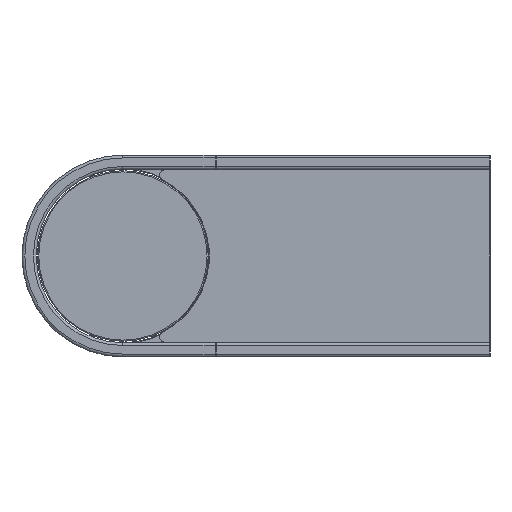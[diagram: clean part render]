
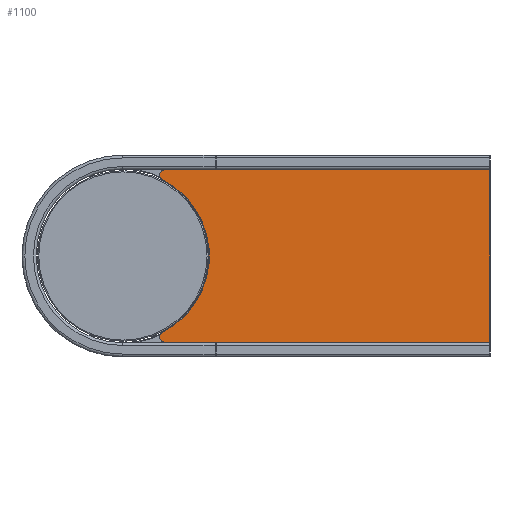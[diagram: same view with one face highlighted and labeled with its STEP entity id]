
A CAD part, front view. The second image highlights one B-rep face of the part: STEP entity #1100.
In plain terms, the highlighted planar face has unit normal (0, -1, 0).
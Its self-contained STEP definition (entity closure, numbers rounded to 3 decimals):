
#1 = ORIENTED_EDGE ( 'NONE', *, *, #2198, .T. ) ;
#25 = EDGE_CURVE ( 'NONE', #3736, #3802, #367, .T. ) ;
#86 = ORIENTED_EDGE ( 'NONE', *, *, #323, .T. ) ;
#133 = ORIENTED_EDGE ( 'NONE', *, *, #5017, .T. ) ;
#239 = DIRECTION ( 'NONE',  ( 0., 0., -1. ) ) ;
#323 = EDGE_CURVE ( 'NONE', #5238, #3290, #514, .T. ) ;
#327 = DIRECTION ( 'NONE',  ( -1., 0., 0. ) ) ;
#367 = LINE ( 'NONE', #5192, #2053 ) ;
#369 = CARTESIAN_POINT ( 'NONE',  ( 16.22, 24.5, -15.17 ) ) ;
#418 = DIRECTION ( 'NONE',  ( 0., -1., 0. ) ) ;
#514 = CIRCLE ( 'NONE', #4794, 0.9 ) ;
#617 = EDGE_CURVE ( 'NONE', #2927, #3086, #5179, .T. ) ;
#691 = DIRECTION ( 'NONE',  ( 0., 1., 0. ) ) ;
#835 = ORIENTED_EDGE ( 'NONE', *, *, #1845, .T. ) ;
#1074 = DIRECTION ( 'NONE',  ( 1., 0., 0. ) ) ;
#1100 = ADVANCED_FACE ( 'NONE', ( #2795 ), #2817, .T. ) ;
#1128 = DIRECTION ( 'NONE',  ( 0., 1., 0. ) ) ;
#1160 = CARTESIAN_POINT ( 'NONE',  ( 16.4, 24.5, -15.35 ) ) ;
#1179 = CARTESIAN_POINT ( 'NONE',  ( 16.256, 24.5, -15.211 ) ) ;
#1197 = CARTESIAN_POINT ( 'NONE',  ( 16.256, 24.5, -15.211 ) ) ;
#1262 = LINE ( 'NONE', #4102, #2338 ) ;
#1263 = DIRECTION ( 'NONE',  ( 0., -1., 0. ) ) ;
#1277 = ORIENTED_EDGE ( 'NONE', *, *, #617, .T. ) ;
#1643 = LINE ( 'NONE', #2076, #3634 ) ;
#1671 = EDGE_CURVE ( 'NONE', #3290, #2996, #3362, .T. ) ;
#1697 = ORIENTED_EDGE ( 'NONE', *, *, #1671, .T. ) ;
#1845 = EDGE_CURVE ( 'NONE', #2996, #2324, #2247, .T. ) ;
#1936 = EDGE_CURVE ( 'NONE', #3802, #5238, #1967, .T. ) ;
#1952 = DIRECTION ( 'NONE',  ( -1., 0., 0. ) ) ;
#1967 = LINE ( 'NONE', #4838, #2501 ) ;
#2008 = ORIENTED_EDGE ( 'NONE', *, *, #25, .T. ) ;
#2010 = CARTESIAN_POINT ( 'NONE',  ( 16.239, 24.5, -15.189 ) ) ;
#2053 = VECTOR ( 'NONE', #1952, 1000. ) ;
#2076 = CARTESIAN_POINT ( 'NONE',  ( 64.559, 24.5, 15.15 ) ) ;
#2182 = CARTESIAN_POINT ( 'NONE',  ( 64.559, 24.5, 15.15 ) ) ;
#2198 = EDGE_CURVE ( 'NONE', #2324, #2648, #1262, .T. ) ;
#2247 = CIRCLE ( 'NONE', #2333, 0.9 ) ;
#2324 = VERTEX_POINT ( 'NONE', #4281 ) ;
#2333 = AXIS2_PLACEMENT_3D ( 'NONE', #2515, #4497, #4539 ) ;
#2338 = VECTOR ( 'NONE', #4081, 1000. ) ;
#2501 = VECTOR ( 'NONE', #327, 1000. ) ;
#2515 = CARTESIAN_POINT ( 'NONE',  ( 7.376, 24.5, -14.25 ) ) ;
#2563 = ORIENTED_EDGE ( 'NONE', *, *, #1936, .T. ) ;
#2570 = CARTESIAN_POINT ( 'NONE',  ( 16.2, 24.5, -15.15 ) ) ;
#2648 = VERTEX_POINT ( 'NONE', #2570 ) ;
#2784 = CIRCLE ( 'NONE', #3551, 0.2 ) ;
#2795 = FACE_OUTER_BOUND ( 'NONE', #2956, .T. ) ;
#2817 = PLANE ( 'NONE',  #4368 ) ;
#2927 = VERTEX_POINT ( 'NONE', #3912 ) ;
#2956 = EDGE_LOOP ( 'NONE', ( #1277, #133, #2008, #2563, #86, #1697, #835, #1, #4901, #3262 ) ) ;
#2996 = VERTEX_POINT ( 'NONE', #5248 ) ;
#3045 = CARTESIAN_POINT ( 'NONE',  ( 16.4, 24.5, 15.15 ) ) ;
#3086 = VERTEX_POINT ( 'NONE', #4013 ) ;
#3089 = EDGE_CURVE ( 'NONE', #2648, #4007, #4270, .T. ) ;
#3174 = CARTESIAN_POINT ( 'NONE',  ( 81.35, 24.5, -15.15 ) ) ;
#3262 = ORIENTED_EDGE ( 'NONE', *, *, #5251, .T. ) ;
#3290 = VERTEX_POINT ( 'NONE', #4331 ) ;
#3362 = CIRCLE ( 'NONE', #4552, 15.1 ) ;
#3551 = AXIS2_PLACEMENT_3D ( 'NONE', #1160, #1128, #239 ) ;
#3568 = DIRECTION ( 'NONE',  ( 0., 0., -1. ) ) ;
#3634 = VECTOR ( 'NONE', #4888, 1000. ) ;
#3736 = VERTEX_POINT ( 'NONE', #2182 ) ;
#3738 = CARTESIAN_POINT ( 'NONE',  ( 7.376, 24.5, 14.25 ) ) ;
#3775 = VECTOR ( 'NONE', #1074, 1000. ) ;
#3802 = VERTEX_POINT ( 'NONE', #3045 ) ;
#3912 = CARTESIAN_POINT ( 'NONE',  ( 16.4, 24.5, -15.15 ) ) ;
#4007 = VERTEX_POINT ( 'NONE', #1179 ) ;
#4013 = CARTESIAN_POINT ( 'NONE',  ( 64.559, 24.5, -15.15 ) ) ;
#4041 = CARTESIAN_POINT ( 'NONE',  ( 16.2, 24.5, -15.15 ) ) ;
#4081 = DIRECTION ( 'NONE',  ( 1., 0., 0. ) ) ;
#4102 = CARTESIAN_POINT ( 'NONE',  ( 16.3, 24.5, -15.15 ) ) ;
#4214 = CARTESIAN_POINT ( 'NONE',  ( 7.376, 24.5, 15.15 ) ) ;
#4270 = B_SPLINE_CURVE_WITH_KNOTS ( 'NONE', 3,
 ( #4041, #369, #2010, #1197 ),
 .UNSPECIFIED., .F., .F.,
 ( 4, 4 ),
 ( 0., 0. ),
 .UNSPECIFIED. ) ;
#4281 = CARTESIAN_POINT ( 'NONE',  ( 7.376, 24.5, -15.15 ) ) ;
#4331 = CARTESIAN_POINT ( 'NONE',  ( 6.967, 24.5, 13.448 ) ) ;
#4368 = AXIS2_PLACEMENT_3D ( 'NONE', #5277, #418, #4931 ) ;
#4497 = DIRECTION ( 'NONE',  ( 0., -1., 0. ) ) ;
#4539 = DIRECTION ( 'NONE',  ( 0., 0., -1. ) ) ;
#4552 = AXIS2_PLACEMENT_3D ( 'NONE', #4743, #691, #3568 ) ;
#4743 = CARTESIAN_POINT ( 'NONE',  ( 0.1, 24.5, 0. ) ) ;
#4794 = AXIS2_PLACEMENT_3D ( 'NONE', #3738, #1263, #4919 ) ;
#4838 = CARTESIAN_POINT ( 'NONE',  ( 7.376, 24.5, 15.15 ) ) ;
#4888 = DIRECTION ( 'NONE',  ( 0., 0., 1. ) ) ;
#4901 = ORIENTED_EDGE ( 'NONE', *, *, #3089, .T. ) ;
#4919 = DIRECTION ( 'NONE',  ( 0., 0., -1. ) ) ;
#4931 = DIRECTION ( 'NONE',  ( 0., 0., -1. ) ) ;
#5017 = EDGE_CURVE ( 'NONE', #3086, #3736, #1643, .T. ) ;
#5179 = LINE ( 'NONE', #3174, #3775 ) ;
#5192 = CARTESIAN_POINT ( 'NONE',  ( 81.35, 24.5, 15.15 ) ) ;
#5238 = VERTEX_POINT ( 'NONE', #4214 ) ;
#5248 = CARTESIAN_POINT ( 'NONE',  ( 6.967, 24.5, -13.448 ) ) ;
#5251 = EDGE_CURVE ( 'NONE', #4007, #2927, #2784, .T. ) ;
#5277 = CARTESIAN_POINT ( 'NONE',  ( 81.35, 24.5, 0. ) ) ;
